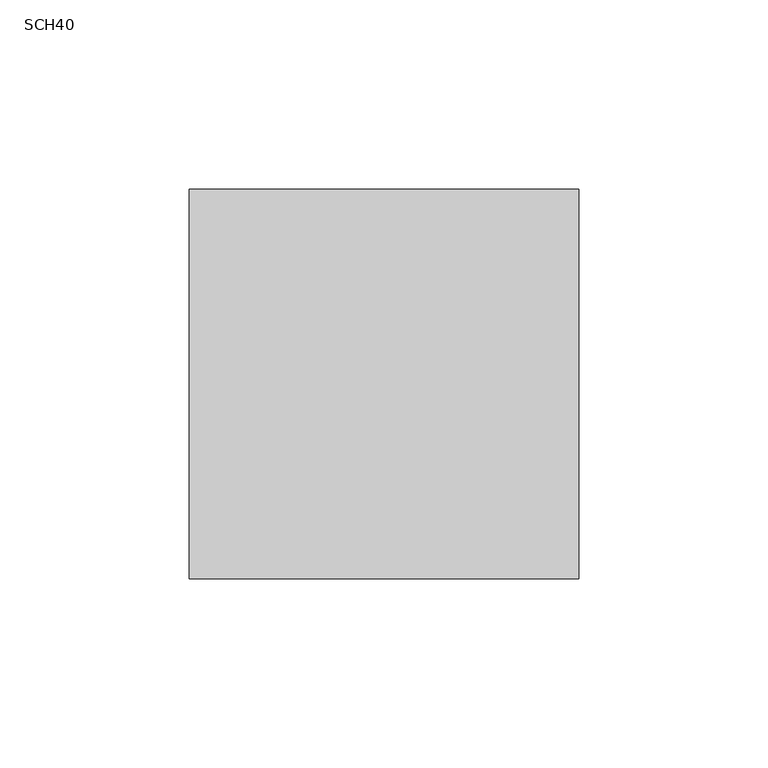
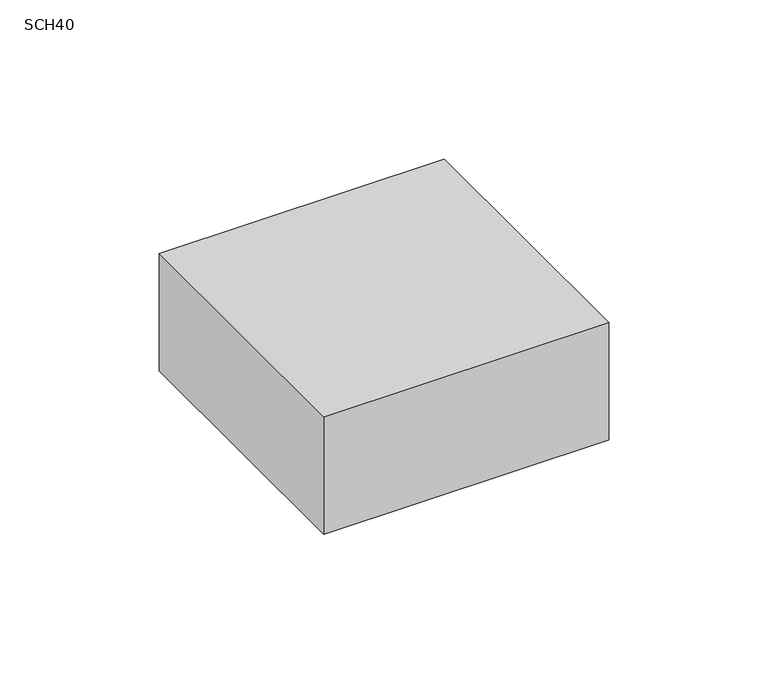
"""IFC4 building model written with IfcOpenShell, lengths in millimetres: cable carrier fitting geometry, PavcoWavin_ConduitFittings_CajaDoble_Cruz : SCH40."""

import ifcopenshell
import ifcopenshell.guid

model = None  # the IFC model being written
_history = None  # IfcOwnerHistory: only IFC2X3 demands one
_inside = {}  # id of a spatial element -> (the spatial element, [elements in it])
_under = {}  # id of a project, library or spatial element -> (it, [spatial elements below it])
_declared = {}  # id of a project -> (the project, [libraries it declares])
_typed = {}  # id of a type object -> (the type object, [elements of that type])
_made_of = {}  # id of a material, layer set ... -> (it, [elements and type objects made of it])


def new_model(schema):
    """Start an empty IFC model of exactly this schema.

    Asked for "IFC4X3", IfcOpenShell would pick the latest addendum, in which some entities
    have other attributes; the version numbers below select the first issue.
    IFC2X3 requires an IfcOwnerHistory on every rooted entity: one is made here for all.
    """
    global model, _history
    if schema == "IFC4X3":
        model = ifcopenshell.file(schema_version=(4, 3, 0, 0))
    else:
        model = ifcopenshell.file(schema=schema)
    _inside.clear()
    _under.clear()
    _declared.clear()
    _typed.clear()
    _made_of.clear()
    _history = None
    if model.schema == "IFC2X3":
        org = make("IfcOrganization", Name="unknown")
        user = make(
            "IfcPersonAndOrganization",
            ThePerson=make("IfcPerson", FamilyName="unknown"),
            TheOrganization=org,
        )
        app = make(
            "IfcApplication",
            ApplicationDeveloper=org,
            Version="unknown",
            ApplicationFullName="unknown",
            ApplicationIdentifier="unknown",
        )
        _history = make(
            "IfcOwnerHistory",
            OwningUser=user,
            OwningApplication=app,
            ChangeAction="ADDED",
            CreationDate=0,
        )
    return model


def make(cls, **values):
    """One entity of the class cls with the attributes given. An attribute that is None is left unset."""
    return model.create_entity(
        cls, **{name: value for name, value in values.items() if value is not None}
    )


def rooted(cls, **values):
    """An entity with a GlobalId (a new one), such as an element, a storey or a relation."""
    return make(cls, GlobalId=ifcopenshell.guid.new(), OwnerHistory=_history, **values)


def si_unit(unit_type, name, prefix=None):
    """IfcSIUnit, for example si_unit("LENGTHUNIT", "METRE", prefix="MILLI")."""
    return make("IfcSIUnit", UnitType=unit_type, Prefix=prefix, Name=name)


def assignment(units):
    """IfcUnitAssignment: the units of a project."""
    return None if units is None else make("IfcUnitAssignment", Units=units)


def point(xyz):
    """IfcCartesianPoint."""
    return None if xyz is None else make("IfcCartesianPoint", Coordinates=xyz)


def direction(xyz):
    """IfcDirection."""
    return None if xyz is None else make("IfcDirection", DirectionRatios=xyz)


def frame(location, z_axis=None, x_axis=None):
    """IfcAxis2Placement3D, a coordinate frame: its origin and axes. An axis left out is left unset."""
    return make(
        "IfcAxis2Placement3D",
        Location=point(location),
        Axis=direction(z_axis),
        RefDirection=direction(x_axis),
    )


def origin():
    """The frame at (0, 0, 0) with its axes left unset."""
    return frame((0.0, 0.0, 0.0))


def place(relative_to, where):
    """IfcLocalPlacement: puts the frame where relative to a parent placement (None: the world)."""
    return make(
        "IfcLocalPlacement", PlacementRelTo=relative_to, RelativePlacement=where
    )


def context(
    kind, dimensions, precision=None, world=None, true_north=None, identifier=None
):
    """IfcGeometricRepresentationContext, for example the 3D "Model" context."""
    return make(
        "IfcGeometricRepresentationContext",
        ContextIdentifier=identifier,
        ContextType=kind,
        CoordinateSpaceDimension=dimensions,
        Precision=precision,
        WorldCoordinateSystem=world,
        TrueNorth=true_north,
    )


def project(units=None, contexts=None):
    """IfcProject with its units and contexts."""
    return rooted(
        "IfcProject",
        Name="project",
        RepresentationContexts=contexts,
        UnitsInContext=assignment(units),
    )


def spatial(cls, under=None, at=None, **own):
    """A site, building, storey or space (cls), placed at a placement, below another one or the project."""
    s = rooted(cls, ObjectPlacement=at, **own)
    if under is not None:
        _under.setdefault(under.id(), (under, []))[1].append(s)
    return s


def polyline(points):
    """IfcPolyline through the points."""
    return make("IfcPolyline", Points=[point(p) for p in points])


def outline(outer, holes=None, kind="AREA"):
    """IfcArbitraryClosedProfileDef: a profile drawn as a closed curve; with holes, ...WithVoids."""
    if holes is None:
        return make("IfcArbitraryClosedProfileDef", ProfileType=kind, OuterCurve=outer)
    return make(
        "IfcArbitraryProfileDefWithVoids",
        ProfileType=kind,
        OuterCurve=outer,
        InnerCurves=holes,
    )


def extrude(swept, where, along, depth):
    """IfcExtrudedAreaSolid: the profile swept, set in the frame where, extruded along a direction by depth."""
    return make(
        "IfcExtrudedAreaSolid",
        SweptArea=swept,
        Position=where,
        ExtrudedDirection=direction(along),
        Depth=depth,
    )


def shape(context_of_items, identifier, shape_type, items):
    """IfcShapeRepresentation: the items that make up one representation, for example the "Body"."""
    return make(
        "IfcShapeRepresentation",
        ContextOfItems=context_of_items,
        RepresentationIdentifier=identifier,
        RepresentationType=shape_type,
        Items=items,
    )


def source(mapping_origin, context_of_items, identifier, shape_type, items):
    """IfcRepresentationMap: a shape defined once, which mapped items show again and again."""
    return make(
        "IfcRepresentationMap",
        MappingOrigin=mapping_origin,
        MappedRepresentation=shape(context_of_items, identifier, shape_type, items),
    )


def transform(
    local_origin,
    x_axis=None,
    y_axis=None,
    z_axis=None,
    scale=None,
    scale2=None,
    scale3=None,
    uniform=True,
):
    """IfcCartesianTransformationOperator3D, or its non-uniform kind. x_axis, y_axis, z_axis: its Axis1, 2, 3."""
    if uniform:
        return make(
            "IfcCartesianTransformationOperator3D",
            Axis1=direction(x_axis),
            Axis2=direction(y_axis),
            LocalOrigin=point(local_origin),
            Scale=scale,
            Axis3=direction(z_axis),
        )
    return make(
        "IfcCartesianTransformationOperator3DnonUniform",
        Axis1=direction(x_axis),
        Axis2=direction(y_axis),
        LocalOrigin=point(local_origin),
        Scale=scale,
        Axis3=direction(z_axis),
        Scale2=scale2,
        Scale3=scale3,
    )


def mapped(mapping_source, mapping_target):
    """IfcMappedItem: shows the shape of a source again, moved by a transform."""
    return make(
        "IfcMappedItem", MappingSource=mapping_source, MappingTarget=mapping_target
    )


def made_of(thing, what):
    """Note that an element or type object is made of a material, layer set ...; save() writes the relation."""
    if what is not None:
        _made_of.setdefault(what.id(), (what, []))[1].append(thing)
    return thing


def element(
    cls,
    number,
    at=None,
    inside=None,
    cuts=None,
    type_object=None,
    material=None,
    context=None,
    identifier="Body",
    shape_type=None,
    held_by="IfcProductDefinitionShape",
    body=None,
    shapes=None,
    **own,
):
    """One element of the class cls, such as IfcWall. Its Tag is "e" and its number.

    at: its placement. inside: the storey or other place that contains it. cuts: it is an
    opening in that element (IfcRelVoidsElement). A single representation is given by context,
    identifier, shape_type and body (its items); several are given by shapes. held_by: the class
    of the entity that holds the representations. save() writes the other relations.
    """
    e = rooted(cls, Tag="e%d" % number, ObjectPlacement=at, **own)
    if body is not None:
        shapes = [shape(context, identifier, shape_type, body)]
    if shapes is not None:
        e.Representation = make(held_by, Representations=shapes)
    if inside is not None:
        _inside.setdefault(inside.id(), (inside, []))[1].append(e)
    if cuts is not None:
        rooted(
            "IfcRelVoidsElement", RelatingBuildingElement=cuts, RelatedOpeningElement=e
        )
    if type_object is not None:
        _typed.setdefault(type_object.id(), (type_object, []))[1].append(e)
    return made_of(e, material)


def aggregate(whole, parts):
    """IfcRelAggregates: a whole, such as a stair, and the parts it consists of."""
    return rooted("IfcRelAggregates", RelatingObject=whole, RelatedObjects=parts)


def save(model, path):
    """Write the relations noted so far, then the file.

    IfcRelAggregates (storeys below a building ...), IfcRelContainedInSpatialStructure (elements
    in a storey), IfcRelDefinesByType, IfcRelAssociatesMaterial and IfcRelDeclares: one each for
    every whole, place, type object, material and project.
    """
    for whole, parts in _under.values():
        aggregate(whole, parts)
    for where, things in _inside.values():
        rooted(
            "IfcRelContainedInSpatialStructure",
            RelatedElements=things,
            RelatingStructure=where,
        )
    for kind, things in _typed.values():
        rooted("IfcRelDefinesByType", RelatedObjects=things, RelatingType=kind)
    for what, things in _made_of.values():
        rooted("IfcRelAssociatesMaterial", RelatedObjects=things, RelatingMaterial=what)
    for by, libraries in _declared.values():
        rooted("IfcRelDeclares", RelatingContext=by, RelatedDefinitions=libraries)
    model.write(path)


def sch40_0bdad339(model_context):
    return source(origin(), model_context, "Body", "SweptSolid", [
        extrude(outline(polyline([(51.55, 34.05), (51.55, -69.05), (-51.55, -69.05), (-51.55, 34.05), (51.55, 34.05)])), frame((0.0, 0.0, -22.5), z_axis=(0.0, 0.0, 1.0), x_axis=(1.0, 0.0, 0.0)), (0.0, 0.0, 1.0), 45.0),
    ])


if __name__ == "__main__":
    model = new_model("IFC4")
    model_context = context("Model", 3, world=origin())
    ifc_project = project(units=[si_unit("LENGTHUNIT", "METRE", prefix="MILLI")], contexts=[model_context])
    site = spatial("IfcSite", under=ifc_project)
    building = spatial("IfcBuilding", under=site)
    placement = place(None, origin())
    sch40_shape = sch40_0bdad339(model_context)
    element("IfcCableCarrierFitting", 1, ObjectType="PavcoWavin_ConduitFittings_CajaDoble_Cruz : SCH40", at=placement, inside=building, context=model_context, shape_type="MappedRepresentation", body=[
        mapped(sch40_shape, transform((0.0, 0.0, 0.0), x_axis=(1.0, 0.0, 0.0), y_axis=(0.0, 1.0, 0.0), z_axis=(0.0, 0.0, 1.0))),
    ])
    save(model, "model.ifc")
